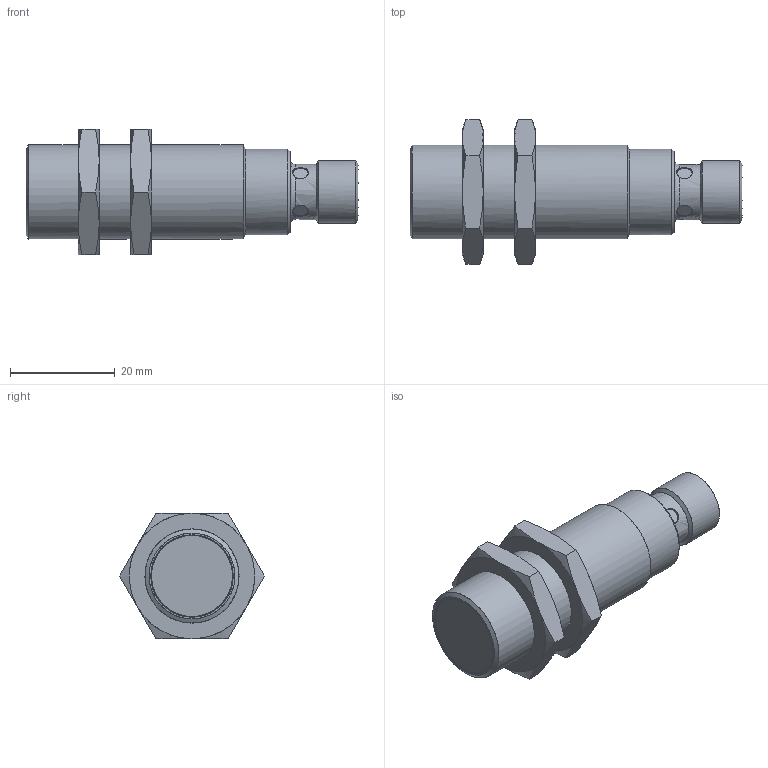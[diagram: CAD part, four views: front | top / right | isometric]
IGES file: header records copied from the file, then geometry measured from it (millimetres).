
Global section: file name: H:\lem\3DCAD_IS_218MM_xNx_12E_S12.igs; native system: NX V11.0; preprocessor: SIEMENS PLM Software NX 11.0; date: 20211013.135941; units: millimetre
Bounding box: 63.5 x 27.71 x 24 mm (x, y, z)
Surface area: 5256.2 mm2 (no closed solid volume)
Topology: 0 solids, 0 shells, 102 faces, 697 edges, 664 vertices
Faces by surface type: bspline 102
